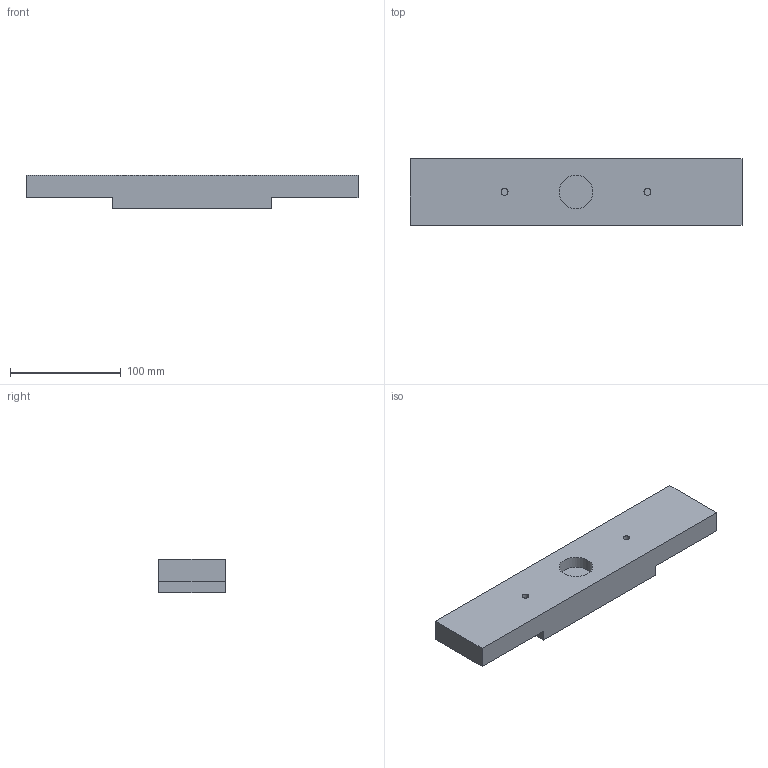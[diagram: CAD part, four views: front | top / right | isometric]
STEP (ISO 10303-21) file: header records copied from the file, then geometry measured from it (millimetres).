
FILE_DESCRIPTION(('STEP AP203'), '1');
FILE_NAME('ﾎ魵瑙韃', '', ('UNSPECIFIED'), ('UNSPECIFIED'), 'C3D Converter', 'C3D Toolkit', '');
FILE_SCHEMA(('CONFIG_CONTROL_DESIGN'));
Length unit declared in the file: millimetre
Bounding box: 300 x 60 x 30 mm (x, y, z)
Volume: 437916.7 mm3; surface area: 55913.2 mm2
Topology: 1 solids, 1 shells, 16 faces, 33 edges, 22 vertices
Faces by surface type: plane 13, cylinder 3
Full cylindrical faces by diameter (mm): 6.2 x2, 30.2 x1
Entity records: 576 total; most frequent: DIRECTION 70, CARTESIAN_POINT 69, ORIENTED_EDGE 60, EDGE_CURVE 30, LINE 24, VECTOR 24, AXIS2_PLACEMENT_3D 23, EDGE_LOOP 22
